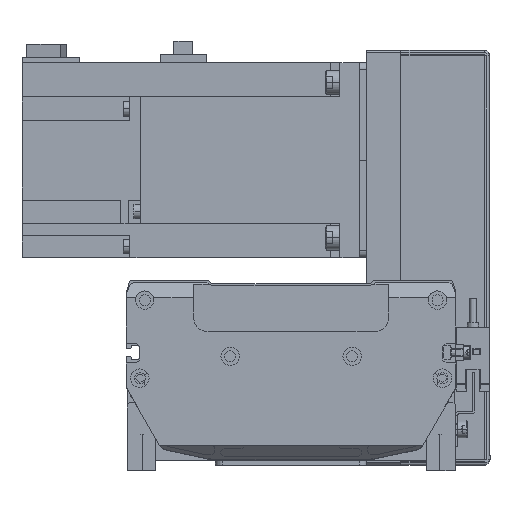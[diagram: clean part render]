
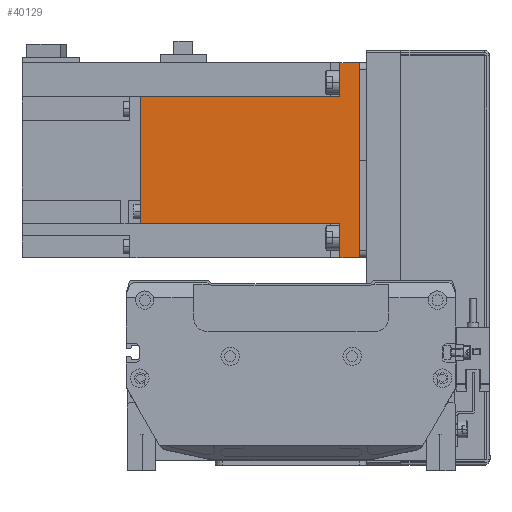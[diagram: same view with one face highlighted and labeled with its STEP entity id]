
A CAD part, front view. The second image highlights one B-rep face of the part: STEP entity #40129.
In plain terms, the highlighted planar face has unit normal (0, -1, 0) as drawn and (0, 0, 1) by its records, which use the part's own axes.
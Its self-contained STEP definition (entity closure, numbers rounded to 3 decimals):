
#3727 = ORIENTED_EDGE ( 'NONE', *, *, #9867, .F. ) ;
#4110 = VERTEX_POINT ( 'NONE', #37647 ) ;
#4537 = CARTESIAN_POINT ( 'NONE',  ( 40., 89.8, 40. ) ) ;
#4652 = EDGE_CURVE ( 'NONE', #25611, #8566, #31123, .T. ) ;
#5145 = DIRECTION ( 'NONE',  ( 0., 0., -1. ) ) ;
#5394 = LINE ( 'NONE', #44820, #47957 ) ;
#5897 = DIRECTION ( 'NONE',  ( 1., 0., 0. ) ) ;
#8349 = EDGE_CURVE ( 'NONE', #41122, #44459, #10207, .T. ) ;
#8428 = ORIENTED_EDGE ( 'NONE', *, *, #32145, .F. ) ;
#8566 = VERTEX_POINT ( 'NONE', #28386 ) ;
#9584 = VECTOR ( 'NONE', #47791, 1000. ) ;
#9867 = EDGE_CURVE ( 'NONE', #40793, #47120, #33225, .T. ) ;
#9991 = DIRECTION ( 'NONE',  ( 1., 0., 0. ) ) ;
#10198 = ORIENTED_EDGE ( 'NONE', *, *, #8349, .F. ) ;
#10207 = LINE ( 'NONE', #14822, #9584 ) ;
#10744 = DIRECTION ( 'NONE',  ( 0., -1., 0. ) ) ;
#14488 = CARTESIAN_POINT ( 'NONE',  ( -40., 89.8, 40. ) ) ;
#14822 = CARTESIAN_POINT ( 'NONE',  ( -40., 8., 40. ) ) ;
#16397 = VECTOR ( 'NONE', #32795, 1000. ) ;
#16893 = VECTOR ( 'NONE', #28612, 1000. ) ;
#18553 = CARTESIAN_POINT ( 'NONE',  ( -40., 0., 40. ) ) ;
#19703 = ORIENTED_EDGE ( 'NONE', *, *, #31365, .F. ) ;
#21303 = AXIS2_PLACEMENT_3D ( 'NONE', #25271, #5145, #38053 ) ;
#21399 = CARTESIAN_POINT ( 'NONE',  ( 25.95, 8., 40. ) ) ;
#22199 = ORIENTED_EDGE ( 'NONE', *, *, #45121, .F. ) ;
#23535 = LINE ( 'NONE', #14488, #49377 ) ;
#24242 = DIRECTION ( 'NONE',  ( 0., 1., 0. ) ) ;
#24392 = DIRECTION ( 'NONE',  ( 1., 0., 0. ) ) ;
#24834 = VECTOR ( 'NONE', #9991, 1000. ) ;
#25271 = CARTESIAN_POINT ( 'NONE',  ( -40., 89.8, 40. ) ) ;
#25611 = VERTEX_POINT ( 'NONE', #18553 ) ;
#26313 = CARTESIAN_POINT ( 'NONE',  ( -40., 8., 40. ) ) ;
#26398 = CARTESIAN_POINT ( 'NONE',  ( -40., 89.8, 40. ) ) ;
#26541 = LINE ( 'NONE', #4537, #16893 ) ;
#27248 = FACE_OUTER_BOUND ( 'NONE', #51572, .T. ) ;
#28386 = CARTESIAN_POINT ( 'NONE',  ( 40., 0., 40. ) ) ;
#28612 = DIRECTION ( 'NONE',  ( 0., 1., 0. ) ) ;
#29614 = LINE ( 'NONE', #26398, #36098 ) ;
#31123 = LINE ( 'NONE', #45521, #35025 ) ;
#31365 = EDGE_CURVE ( 'NONE', #4110, #40793, #32486, .T. ) ;
#32116 = CARTESIAN_POINT ( 'NONE',  ( -25.95, 8., 40. ) ) ;
#32145 = EDGE_CURVE ( 'NONE', #44459, #33758, #5394, .T. ) ;
#32486 = LINE ( 'NONE', #41222, #16397 ) ;
#32795 = DIRECTION ( 'NONE',  ( 0., -1., 0. ) ) ;
#32883 = CARTESIAN_POINT ( 'NONE',  ( -25.95, 89.8, 40. ) ) ;
#33225 = LINE ( 'NONE', #26313, #24834 ) ;
#33758 = VERTEX_POINT ( 'NONE', #32883 ) ;
#35025 = VECTOR ( 'NONE', #24392, 1000. ) ;
#36098 = VECTOR ( 'NONE', #5897, 1000. ) ;
#37647 = CARTESIAN_POINT ( 'NONE',  ( 25.95, 89.8, 40. ) ) ;
#38053 = DIRECTION ( 'NONE',  ( -1., 0., 0. ) ) ;
#40129 = ADVANCED_FACE ( 'NONE', ( #27248 ), #50017, .F. ) ;
#40793 = VERTEX_POINT ( 'NONE', #21399 ) ;
#41122 = VERTEX_POINT ( 'NONE', #49667 ) ;
#41222 = CARTESIAN_POINT ( 'NONE',  ( 25.95, 89.8, 40. ) ) ;
#42499 = EDGE_CURVE ( 'NONE', #41122, #25611, #23535, .T. ) ;
#43966 = EDGE_CURVE ( 'NONE', #8566, #47120, #26541, .T. ) ;
#44459 = VERTEX_POINT ( 'NONE', #32116 ) ;
#44820 = CARTESIAN_POINT ( 'NONE',  ( -25.95, 89.8, 40. ) ) ;
#44984 = CARTESIAN_POINT ( 'NONE',  ( 40., 8., 40. ) ) ;
#45121 = EDGE_CURVE ( 'NONE', #33758, #4110, #29614, .T. ) ;
#45521 = CARTESIAN_POINT ( 'NONE',  ( 0., 0., 40. ) ) ;
#45819 = ORIENTED_EDGE ( 'NONE', *, *, #43966, .T. ) ;
#47120 = VERTEX_POINT ( 'NONE', #44984 ) ;
#47791 = DIRECTION ( 'NONE',  ( 1., 0., 0. ) ) ;
#47957 = VECTOR ( 'NONE', #24242, 1000. ) ;
#49377 = VECTOR ( 'NONE', #10744, 1000. ) ;
#49667 = CARTESIAN_POINT ( 'NONE',  ( -40., 8., 40. ) ) ;
#50017 = PLANE ( 'NONE',  #21303 ) ;
#51378 = ORIENTED_EDGE ( 'NONE', *, *, #42499, .T. ) ;
#51572 = EDGE_LOOP ( 'NONE', ( #10198, #51378, #52950, #45819, #3727, #19703, #22199, #8428 ) ) ;
#52950 = ORIENTED_EDGE ( 'NONE', *, *, #4652, .T. ) ;
